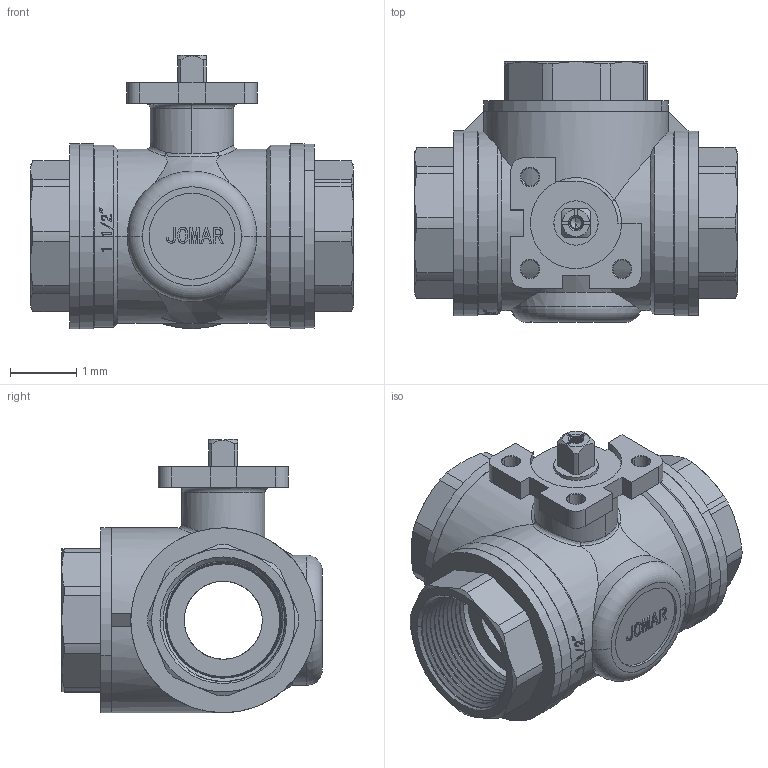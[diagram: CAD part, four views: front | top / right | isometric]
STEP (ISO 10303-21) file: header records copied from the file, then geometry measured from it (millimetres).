
FILE_DESCRIPTION(('Open CASCADE Model'),'2;1');
FILE_NAME('Open CASCADE Shape Model','2023-01-24T15:58:40',('Author'),( 'Open CASCADE'),'Open CASCADE STEP processor 7.3','Open CASCADE 7.3' ,'Unknown');
FILE_SCHEMA(('AUTOMOTIVE_DESIGN { 1 0 10303 214 1 1 1 1 }'));
Length unit declared in the file: millimetre
Products named in the file (18): Open CASCADE STEP translator 7.3 1; Open CASCADE STEP translator 7.3 1.1; Open CASCADE STEP translator 7.3 1.2; Open CASCADE STEP translator 7.3 1.3; Open CASCADE STEP translator 7.3 1.4; Open CASCADE STEP translator 7.3 1.5; Open CASCADE STEP translator 7.3 1.6; Open CASCADE STEP translator 7.3 1.7; Open CASCADE STEP translator 7.3 1.8; Open CASCADE STEP translator 7.3 1.9; Open CASCADE STEP translator 7.3 1.10; Open CASCADE STEP translator 7.3 1.11; Open CASCADE STEP translator 7.3 1.12; Open CASCADE STEP translator 7.3 1.13; Open CASCADE STEP translator 7.3 1.14; Open CASCADE STEP translator 7.3 1.15; Open CASCADE STEP translator 7.3 1.16; Open CASCADE STEP translator 7.3 1.17
Assembly tree (17 placements, depth 2):
  Open CASCADE STEP translator 7.3 1
    Open CASCADE STEP translator 7.3 1.1
    Open CASCADE STEP translator 7.3 1.2
    Open CASCADE STEP translator 7.3 1.3
    Open CASCADE STEP translator 7.3 1.4
    Open CASCADE STEP translator 7.3 1.5
    Open CASCADE STEP translator 7.3 1.6
    Open CASCADE STEP translator 7.3 1.7
    Open CASCADE STEP translator 7.3 1.8
    Open CASCADE STEP translator 7.3 1.9
    Open CASCADE STEP translator 7.3 1.10
    Open CASCADE STEP translator 7.3 1.11
    Open CASCADE STEP translator 7.3 1.12
    Open CASCADE STEP translator 7.3 1.13
    Open CASCADE STEP translator 7.3 1.14
    Open CASCADE STEP translator 7.3 1.15
    Open CASCADE STEP translator 7.3 1.16
    Open CASCADE STEP translator 7.3 1.17
Bounding box: 4.89 x 3.94 x 4.14 mm (x, y, z)
Volume: 20 mm3; surface area: 232.2 mm2
Topology: 17 solids, 17 shells, 845 faces, 2151 edges, 1379 vertices
Faces by surface type: cylinder 294, plane 228, cone 163, bspline 96, torus 50, sphere 10, revolution 4
Entity records: 145272 total; most frequent: CARTESIAN_POINT 106169, DIRECTION 6171, ORIENTED_EDGE 4292, PCURVE 4292, DEFINITIONAL_REPRESENTATION 4292, LINE 3146, VECTOR 3146, EDGE_CURVE 2146
